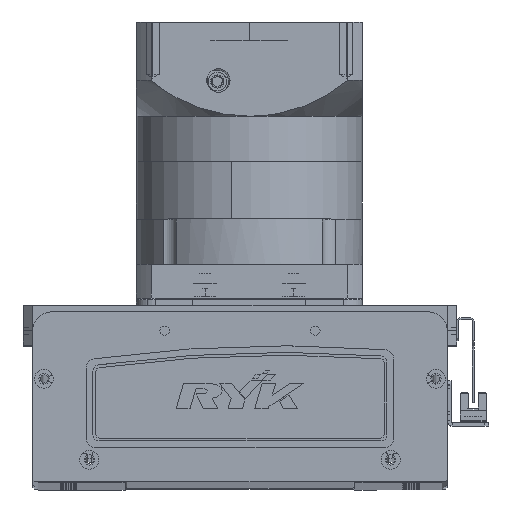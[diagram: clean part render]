
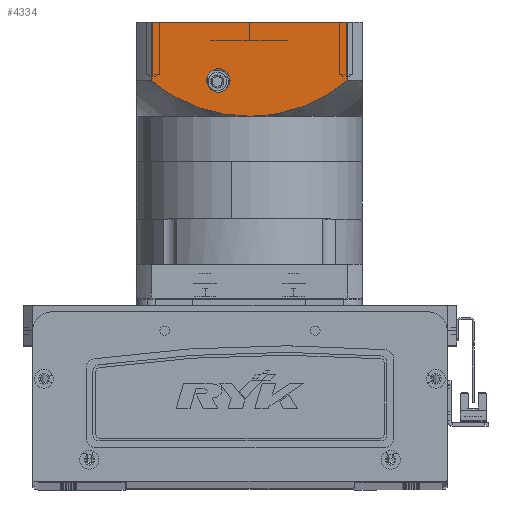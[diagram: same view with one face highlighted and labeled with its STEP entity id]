
A CAD part, top view. The second image highlights one B-rep face of the part: STEP entity #4334.
In plain terms, the highlighted planar face has unit normal (0, 0, 1) as drawn and (0, -1, 0) by its records, which use the part's own axes.
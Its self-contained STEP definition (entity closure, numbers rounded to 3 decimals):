
#450 = VERTEX_POINT ( 'NONE', #14834 ) ;
#705 = CARTESIAN_POINT ( 'NONE',  ( 32.196, -60., -107.007 ) ) ;
#746 = CARTESIAN_POINT ( 'NONE',  ( -52.156, -60., -97.5 ) ) ;
#1168 = CARTESIAN_POINT ( 'NONE',  ( 36.444, -60., -108.986 ) ) ;
#2137 = CARTESIAN_POINT ( 'NONE',  ( -29.939, -60., -106.183 ) ) ;
#2589 = CARTESIAN_POINT ( 'NONE',  ( -9.477, -60., -101.046 ) ) ;
#2809 = CARTESIAN_POINT ( 'NONE',  ( -36.409, -60., -109.113 ) ) ;
#4334 = ADVANCED_FACE ( 'NONE', ( #39338, #21982 ), #5580, .T. ) ;
#4436 = EDGE_CURVE ( 'NONE', #16643, #41218, #46156, .T. ) ;
#5580 = PLANE ( 'NONE',  #13546 ) ;
#5760 = DIRECTION ( 'NONE',  ( 0., 0., -1. ) ) ;
#6127 = ORIENTED_EDGE ( 'NONE', *, *, #28502, .F. ) ;
#6493 = CARTESIAN_POINT ( 'NONE',  ( 52.156, -60., -119.5 ) ) ;
#7678 = EDGE_LOOP ( 'NONE', ( #27048, #45640 ) ) ;
#10442 = DIRECTION ( 'NONE',  ( 1., 0., 0. ) ) ;
#10989 = CARTESIAN_POINT ( 'NONE',  ( 52.156, -60., -150.5 ) ) ;
#11023 = LINE ( 'NONE', #10989, #30090 ) ;
#11098 = VECTOR ( 'NONE', #59070, 1000. ) ;
#11359 = CARTESIAN_POINT ( 'NONE',  ( 44.553, -60., -113.817 ) ) ;
#11819 = CARTESIAN_POINT ( 'NONE',  ( 41.545, -60., -111.931 ) ) ;
#12023 = AXIS2_PLACEMENT_3D ( 'NONE', #32297, #63322, #31422 ) ;
#12047 = CARTESIAN_POINT ( 'NONE',  ( 23.329, -60., -103.886 ) ) ;
#12392 = CARTESIAN_POINT ( 'NONE',  ( 52.156, -60., -119.5 ) ) ;
#13546 = AXIS2_PLACEMENT_3D ( 'NONE', #42093, #58067, #10442 ) ;
#13682 = CARTESIAN_POINT ( 'NONE',  ( 16.5, -60., -113.25 ) ) ;
#13697 = CARTESIAN_POINT ( 'NONE',  ( -35.342, -60., -108.587 ) ) ;
#14834 = CARTESIAN_POINT ( 'NONE',  ( -52.156, -60., -150.5 ) ) ;
#15660 = LINE ( 'NONE', #746, #61187 ) ;
#15965 = CARTESIAN_POINT ( 'NONE',  ( 16.5, -60., -125.75 ) ) ;
#16643 = VERTEX_POINT ( 'NONE', #63707 ) ;
#17350 = CARTESIAN_POINT ( 'NONE',  ( 18.739, -60., -102.681 ) ) ;
#17578 = CARTESIAN_POINT ( 'NONE',  ( 0., -60., -100.5 ) ) ;
#21982 = FACE_BOUND ( 'NONE', #7678, .T. ) ;
#22075 = CARTESIAN_POINT ( 'NONE',  ( -60., -60., -150.5 ) ) ;
#22492 = DIRECTION ( 'NONE',  ( 0., 0., 1. ) ) ;
#23443 = CARTESIAN_POINT ( 'NONE',  ( -18.792, -60., -102.562 ) ) ;
#23448 = VERTEX_POINT ( 'NONE', #13682 ) ;
#23621 = ORIENTED_EDGE ( 'NONE', *, *, #59390, .F. ) ;
#23659 = CARTESIAN_POINT ( 'NONE',  ( -38.51, -60., -110.207 ) ) ;
#24125 = CARTESIAN_POINT ( 'NONE',  ( -4.747, -60., -100.604 ) ) ;
#27048 = ORIENTED_EDGE ( 'NONE', *, *, #35649, .T. ) ;
#27585 = CARTESIAN_POINT ( 'NONE',  ( 4.753, -60., -100.5 ) ) ;
#28502 = EDGE_CURVE ( 'NONE', #34222, #16643, #34415, .T. ) ;
#29221 = CARTESIAN_POINT ( 'NONE',  ( -32.118, -60., -107.084 ) ) ;
#30090 = VECTOR ( 'NONE', #57906, 1000. ) ;
#31422 = DIRECTION ( 'NONE',  ( 0., 0., -1. ) ) ;
#31657 = CARTESIAN_POINT ( 'NONE',  ( -52.156, -60., -119.5 ) ) ;
#32297 = CARTESIAN_POINT ( 'NONE',  ( 16.5, -60., -119.5 ) ) ;
#32389 = CARTESIAN_POINT ( 'NONE',  ( 25.577, -60., -104.596 ) ) ;
#32644 = CARTESIAN_POINT ( 'NONE',  ( 50.338, -60., -117.969 ) ) ;
#32863 = CARTESIAN_POINT ( 'NONE',  ( 19.894, -60., -102.964 ) ) ;
#33088 = CARTESIAN_POINT ( 'NONE',  ( 45.542, -60., -114.478 ) ) ;
#33587 = CARTESIAN_POINT ( 'NONE',  ( -39.546, -60., -110.776 ) ) ;
#34222 = VERTEX_POINT ( 'NONE', #31657 ) ;
#34415 = B_SPLINE_CURVE_WITH_KNOTS ( 'NONE', 3,
 ( #54628, #59958, #65291, #33587, #23659, #2809, #13697, #29221, #2137, #66212, #23443, #60173, #66444, #2589, #44874, #24125, #65763, #60403 ),
 .UNSPECIFIED., .F., .F.,
 ( 4, 2, 2, 2, 2, 2, 2, 2, 4 ),
 ( 0., 0.014, 0.018, 0.021, 0.028, 0.042, 0.046, 0.05, 0.057 ),
 .UNSPECIFIED. ) ;
#35583 = CARTESIAN_POINT ( 'NONE',  ( 52.156, -60., -150.5 ) ) ;
#35649 = EDGE_CURVE ( 'NONE', #38168, #23448, #63656, .T. ) ;
#37396 = DIRECTION ( 'NONE',  ( 0., 1., 0. ) ) ;
#38168 = VERTEX_POINT ( 'NONE', #15965 ) ;
#38369 = CARTESIAN_POINT ( 'NONE',  ( 16.426, -60., -102.169 ) ) ;
#38595 = CARTESIAN_POINT ( 'NONE',  ( 15.267, -60., -101.938 ) ) ;
#39338 = FACE_OUTER_BOUND ( 'NONE', #42971, .T. ) ;
#41218 = VERTEX_POINT ( 'NONE', #12392 ) ;
#41728 = VERTEX_POINT ( 'NONE', #35583 ) ;
#42093 = CARTESIAN_POINT ( 'NONE',  ( -60., -60., -150.5 ) ) ;
#42763 = AXIS2_PLACEMENT_3D ( 'NONE', #63805, #37396, #5760 ) ;
#42971 = EDGE_LOOP ( 'NONE', ( #23621, #53237, #50223, #51717, #6127 ) ) ;
#43672 = CARTESIAN_POINT ( 'NONE',  ( 42.555, -60., -112.543 ) ) ;
#44874 = CARTESIAN_POINT ( 'NONE',  ( -8.294, -60., -100.916 ) ) ;
#45640 = ORIENTED_EDGE ( 'NONE', *, *, #48715, .T. ) ;
#46156 = B_SPLINE_CURVE_WITH_KNOTS ( 'NONE', 3,
 ( #17578, #27585, #64574, #38595, #38369, #17350, #32863, #12047, #32389, #705, #1168, #11819, #43672, #11359, #33088, #59427, #32644, #6493 ),
 .UNSPECIFIED., .F., .F.,
 ( 4, 2, 2, 2, 2, 2, 2, 2, 4 ),
 ( 0., 0.014, 0.018, 0.021, 0.028, 0.042, 0.046, 0.05, 0.057 ),
 .UNSPECIFIED. ) ;
#48715 = EDGE_CURVE ( 'NONE', #23448, #38168, #66995, .T. ) ;
#50223 = ORIENTED_EDGE ( 'NONE', *, *, #66602, .T. ) ;
#51717 = ORIENTED_EDGE ( 'NONE', *, *, #4436, .F. ) ;
#53237 = ORIENTED_EDGE ( 'NONE', *, *, #68259, .T. ) ;
#54628 = CARTESIAN_POINT ( 'NONE',  ( -52.156, -60., -119.5 ) ) ;
#57906 = DIRECTION ( 'NONE',  ( 0., 0., 1. ) ) ;
#58067 = DIRECTION ( 'NONE',  ( 0., -1., 0. ) ) ;
#59070 = DIRECTION ( 'NONE',  ( 1., 0., 0. ) ) ;
#59390 = EDGE_CURVE ( 'NONE', #450, #34222, #15660, .T. ) ;
#59427 = CARTESIAN_POINT ( 'NONE',  ( 48.457, -60., -116.522 ) ) ;
#59958 = CARTESIAN_POINT ( 'NONE',  ( -48.52, -60., -116.438 ) ) ;
#60173 = CARTESIAN_POINT ( 'NONE',  ( -12.993, -60., -101.537 ) ) ;
#60403 = CARTESIAN_POINT ( 'NONE',  ( 0., -60., -100.5 ) ) ;
#61187 = VECTOR ( 'NONE', #22492, 1000. ) ;
#63262 = LINE ( 'NONE', #22075, #11098 ) ;
#63322 = DIRECTION ( 'NONE',  ( 0., 1., 0. ) ) ;
#63656 = CIRCLE ( 'NONE', #12023, 6.25 ) ;
#63707 = CARTESIAN_POINT ( 'NONE',  ( 0., -60., -100.5 ) ) ;
#63805 = CARTESIAN_POINT ( 'NONE',  ( 16.5, -60., -119.5 ) ) ;
#64574 = CARTESIAN_POINT ( 'NONE',  ( 9.454, -60., -100.914 ) ) ;
#65291 = CARTESIAN_POINT ( 'NONE',  ( -44.656, -60., -113.73 ) ) ;
#65763 = CARTESIAN_POINT ( 'NONE',  ( -2.376, -60., -100.5 ) ) ;
#66212 = CARTESIAN_POINT ( 'NONE',  ( -23.319, -60., -103.777 ) ) ;
#66444 = CARTESIAN_POINT ( 'NONE',  ( -11.825, -60., -101.356 ) ) ;
#66602 = EDGE_CURVE ( 'NONE', #41728, #41218, #11023, .T. ) ;
#66995 = CIRCLE ( 'NONE', #42763, 6.25 ) ;
#68259 = EDGE_CURVE ( 'NONE', #450, #41728, #63262, .T. ) ;
